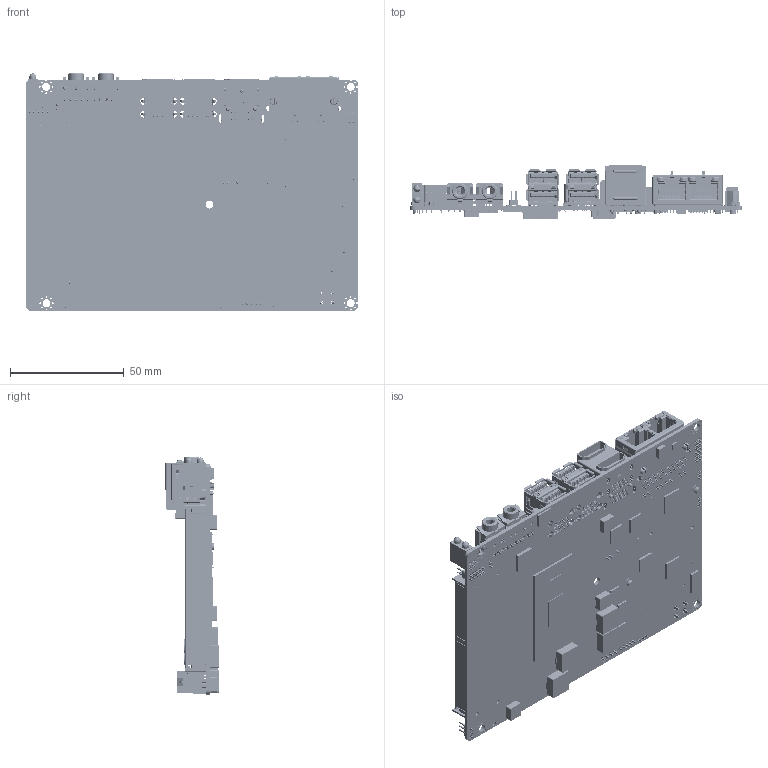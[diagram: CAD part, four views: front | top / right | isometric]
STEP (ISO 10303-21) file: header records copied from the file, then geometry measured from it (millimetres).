
FILE_DESCRIPTION((''),'2;1');
FILE_NAME('ECM-WHL_ASM','2019-10-09T14:20:37',('jamie_liao'),(''),'CREO PARAMETRIC BY PTC INC, 2017110','CREO PARAMETRIC BY PTC INC, 2017110','');
FILE_SCHEMA(('CONFIG_CONTROL_DESIGN','GEOMETRIC_VALIDATION_PROPERTIES_MIM'));
Products named in the file (45): A0_PCB_20190312; A0_PCB; ECM-WHL-A1_PCB; E1304400003H_1; E16D5I00301R; E1652528305R; E16A37D040DH; E16A37D0404H; E16BB671033H; E16BB671030H; E1613620001R; E1613520001R; WHISKEY_LAKE_MOILE_CPU; HDMI; LAN; USB; LED; E1613620000R; E1662510201H; E1667220301R; E1672620202R; 5PIN; E1664410000R_3; E16H1671300R; AUDIO_DXF; 4PIN; E16C4070000H; 3PIN; E1613310000R_1; E1662210201H_2; E1660210201H_1; SIM_6PIN_CME_2_1; SIM_K_CME_R_1; SIM_6PIN_L_R_1; 115G-AAAA-R_C_1_ASM_6_ASM; E1695060300H_ASM; E193A3601X0R; E193A231062R; E16F1038031R; E1183627721H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
Assembly tree (64 placements, depth 4):
  ECM-WHL_ASM
    A0_PCB_20190312
    A0_PCB
    ECM-WHL-A1_PCB
    E1304400003H_1
    E16D5I00301R  x2
    E1652528305R
    E16A37D040DH
    E16A37D0404H
    E16BB671033H
    E16BB671030H
    E1613620001R
    E1613520001R  x2
    WHISKEY_LAKE_MOILE_CPU
    HDMI
    LAN
    USB  x2
    LED
    E1613620000R
    E1662510201H
    E1667220301R
    E1672620202R
    5PIN
    E1664410000R_3
    E16H1671300R  x2
    AUDIO_DXF  x2
    4PIN
    E16C4070000H
    3PIN
    E1613310000R_1  x4
    E1662210201H_2  x2
    E1660210201H_1
    E1695060300H_ASM
      115G-AAAA-R_C_1_ASM_6_ASM
        SIM_6PIN_CME_2_1
        SIM_K_CME_R_1
        SIM_6PIN_L_R_1  x6
    E193A3601X0R  x2
    E193A231062R  x2
    E16F1038031R
    E1183627721H  x2
    E1212201028H  x2
    E121220222EH
    E1212204715H
    E1212201510H  x3
Bounding box: 146.05 x 23.59 x 104.4 mm (x, y, z)
Volume: 52233.8 mm3; surface area: 88294.9 mm2
Topology: 109 solids, 110 shells, 26251 faces, 73613 edges, 47700 vertices
Faces by surface type: plane 19411, cylinder 6139, bspline 478, torus 136, cone 47, sphere 24, extrusion 16
Entity records: 795570 total; most frequent: CARTESIAN_POINT 135163, ORIENTED_EDGE 116808, DIRECTION 107708, EDGE_CURVE 58404, VECTOR 47238, LINE 47226, VERTEX_POINT 37993, AXIS2_PLACEMENT_3D 30235
